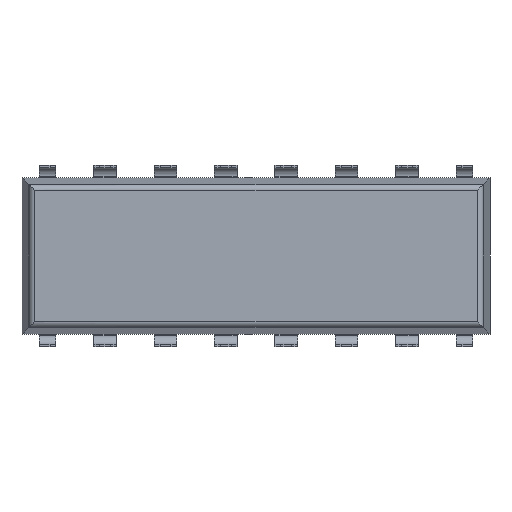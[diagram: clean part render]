
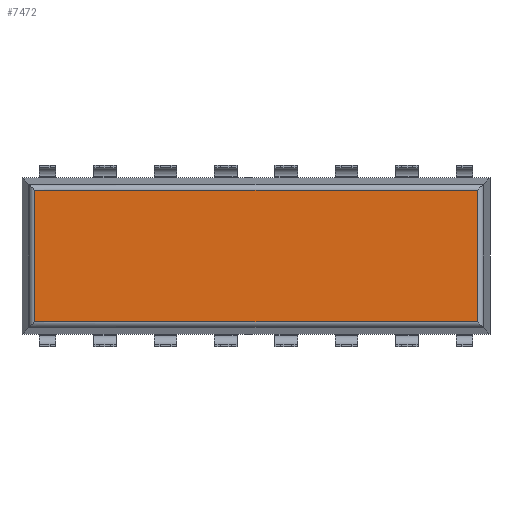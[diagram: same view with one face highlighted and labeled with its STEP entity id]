
A CAD part, front view. The second image highlights one B-rep face of the part: STEP entity #7472.
In plain terms, the highlighted planar face has unit normal (0, -1, 0).
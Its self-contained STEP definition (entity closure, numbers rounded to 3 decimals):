
#7433 = CARTESIAN_POINT ( 'NONE',  ( 9.302, 0.38, -2.759 ) ) ;
#7434 = VERTEX_POINT ( 'NONE', #7433 ) ;
#7435 = CARTESIAN_POINT ( 'NONE',  ( 9.302, 0.38, 2.759 ) ) ;
#7436 = VERTEX_POINT ( 'NONE', #7435 ) ;
#7437 = CARTESIAN_POINT ( 'NONE',  ( 9.302, 0.38, 0. ) ) ;
#7438 = DIRECTION ( 'NONE',  ( 0., 0., 1. ) ) ;
#7439 = VECTOR ( 'NONE', #7438, 1000. ) ;
#7440 = LINE ( 'NONE', #7437, #7439 ) ;
#7441 = EDGE_CURVE ( 'NONE', #7434, #7436, #7440, .T. ) ;
#7442 = ORIENTED_EDGE ( 'NONE', *, *, #7441, .T. ) ;
#7443 = CARTESIAN_POINT ( 'NONE',  ( -9.302, 0.38, 2.759 ) ) ;
#7444 = VERTEX_POINT ( 'NONE', #7443 ) ;
#7445 = CARTESIAN_POINT ( 'NONE',  ( 0., 0.38, 2.759 ) ) ;
#7446 = DIRECTION ( 'NONE',  ( -1., 0., 0. ) ) ;
#7447 = VECTOR ( 'NONE', #7446, 1000. ) ;
#7448 = LINE ( 'NONE', #7445, #7447 ) ;
#7449 = EDGE_CURVE ( 'NONE', #7436, #7444, #7448, .T. ) ;
#7450 = ORIENTED_EDGE ( 'NONE', *, *, #7449, .T. ) ;
#7451 = CARTESIAN_POINT ( 'NONE',  ( -9.302, 0.38, -2.759 ) ) ;
#7452 = VERTEX_POINT ( 'NONE', #7451 ) ;
#7453 = CARTESIAN_POINT ( 'NONE',  ( -9.302, 0.38, 0. ) ) ;
#7454 = DIRECTION ( 'NONE',  ( 0., 0., -1. ) ) ;
#7455 = VECTOR ( 'NONE', #7454, 1000. ) ;
#7456 = LINE ( 'NONE', #7453, #7455 ) ;
#7457 = EDGE_CURVE ( 'NONE', #7444, #7452, #7456, .T. ) ;
#7458 = ORIENTED_EDGE ( 'NONE', *, *, #7457, .T. ) ;
#7459 = CARTESIAN_POINT ( 'NONE',  ( 0., 0.38, -2.759 ) ) ;
#7460 = DIRECTION ( 'NONE',  ( 1., 0., 0. ) ) ;
#7461 = VECTOR ( 'NONE', #7460, 1000. ) ;
#7462 = LINE ( 'NONE', #7459, #7461 ) ;
#7463 = EDGE_CURVE ( 'NONE', #7452, #7434, #7462, .T. ) ;
#7464 = ORIENTED_EDGE ( 'NONE', *, *, #7463, .T. ) ;
#7465 = EDGE_LOOP ( 'NONE', ( #7442, #7450, #7458, #7464 ) ) ;
#7466 = FACE_OUTER_BOUND ( 'NONE', #7465, .T. ) ;
#7467 = CARTESIAN_POINT ( 'NONE',  ( 0., 0.38, 0. ) ) ;
#7468 = DIRECTION ( 'NONE',  ( 0., -1., 0. ) ) ;
#7469 = DIRECTION ( 'NONE',  ( 0., 0., -1. ) ) ;
#7470 = AXIS2_PLACEMENT_3D ( 'NONE', #7467, #7468, #7469 ) ;
#7471 = PLANE ( 'NONE', #7470 ) ;
#7472 = ADVANCED_FACE ( 'NONE', ( #7466 ), #7471, .T. ) ;
